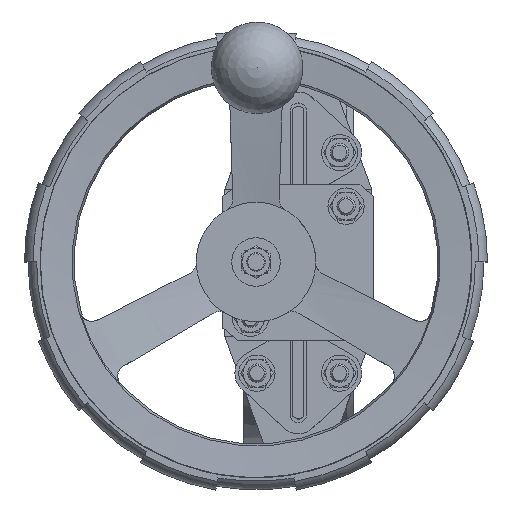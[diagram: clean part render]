
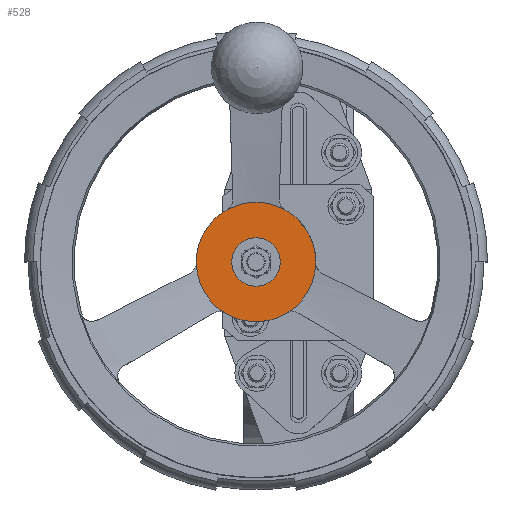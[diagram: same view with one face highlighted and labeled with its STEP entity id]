
A CAD part, top view. The second image highlights one B-rep face of the part: STEP entity #528.
In plain terms, the highlighted planar face has unit normal (0, 0, 1).
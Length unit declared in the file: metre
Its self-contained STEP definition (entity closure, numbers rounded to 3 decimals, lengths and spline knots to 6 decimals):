
#528=ADVANCED_FACE('',(#1864,#1865),#1866,.T.);
#1864=FACE_OUTER_BOUND('',#3893,.T.);
#1865=FACE_BOUND('',#3894,.T.);
#1866=PLANE('',#3895);
#3893=EDGE_LOOP('',(#8822,#8823,#8824,#8825,#8826,#8827));
#3894=EDGE_LOOP('',(#8828));
#3895=AXIS2_PLACEMENT_3D('',#8829,#8830,#8831);
#8822=ORIENTED_EDGE('',*,*,#12283,.F.);
#8823=ORIENTED_EDGE('',*,*,#12284,.T.);
#8824=ORIENTED_EDGE('',*,*,#12285,.F.);
#8825=ORIENTED_EDGE('',*,*,#12286,.T.);
#8826=ORIENTED_EDGE('',*,*,#12275,.F.);
#8827=ORIENTED_EDGE('',*,*,#12281,.T.);
#8828=ORIENTED_EDGE('',*,*,#12287,.F.);
#8829=CARTESIAN_POINT('',(-0.023,0.0325,0.4745));
#8830=DIRECTION('',(0.,0.0,1.0));
#8831=DIRECTION('',(1.0,0.0,0.));
#12275=EDGE_CURVE('',#15298,#15300,#15301,.T.);
#12281=EDGE_CURVE('',#15298,#15308,#15309,.T.);
#12283=EDGE_CURVE('',#15311,#15308,#15312,.T.);
#12284=EDGE_CURVE('',#15311,#15313,#15314,.T.);
#12285=EDGE_CURVE('',#15315,#15313,#15316,.T.);
#12286=EDGE_CURVE('',#15315,#15300,#15317,.T.);
#12287=EDGE_CURVE('',#15318,#15318,#15319,.T.);
#15298=VERTEX_POINT('',#21385);
#15300=VERTEX_POINT('',#21401);
#15301=CIRCLE('',#21402,0.0325);
#15308=VERTEX_POINT('',#21449);
#15309=CIRCLE('',#21450,0.0325);
#15311=VERTEX_POINT('',#21453);
#15312=CIRCLE('',#21454,0.0325);
#15313=VERTEX_POINT('',#21455);
#15314=CIRCLE('',#21456,0.0325);
#15315=VERTEX_POINT('',#21457);
#15316=CIRCLE('',#21458,0.0325);
#15317=CIRCLE('',#21459,0.0325);
#15318=VERTEX_POINT('',#21460);
#15319=CIRCLE('',#21461,0.013175);
#21385=CARTESIAN_POINT('',(0.009496,-0.00053,0.4745));
#21401=CARTESIAN_POINT('',(-0.006153,-0.027793,0.4745));
#21402=AXIS2_PLACEMENT_3D('',#25284,#25285,#25286);
#21449=CARTESIAN_POINT('',(-0.007283,0.028447,0.4745));
#21450=AXIS2_PLACEMENT_3D('',#25289,#25290,#25291);
#21453=CARTESIAN_POINT('',(-0.038717,0.028447,0.4745));
#21454=AXIS2_PLACEMENT_3D('',#25293,#25294,#25295);
#21455=CARTESIAN_POINT('',(-0.055496,-0.00053,0.4745));
#21456=AXIS2_PLACEMENT_3D('',#25296,#25297,#25298);
#21457=CARTESIAN_POINT('',(-0.039847,-0.027793,0.4745));
#21458=AXIS2_PLACEMENT_3D('',#25299,#25300,#25301);
#21459=AXIS2_PLACEMENT_3D('',#25302,#25303,#25304);
#21460=CARTESIAN_POINT('',(-0.009825,0.,0.4745));
#21461=AXIS2_PLACEMENT_3D('',#25305,#25306,#25307);
#25284=CARTESIAN_POINT('',(-0.023,0.,0.4745));
#25285=DIRECTION('',(0.,0.0,-1.0));
#25286=DIRECTION('',(-1.0,0.0,0.));
#25289=CARTESIAN_POINT('',(-0.023,0.,0.4745));
#25290=DIRECTION('',(0.,0.0,1.0));
#25291=DIRECTION('',(1.0,0.0,0.));
#25293=CARTESIAN_POINT('',(-0.023,0.,0.4745));
#25294=DIRECTION('',(0.,0.0,-1.0));
#25295=DIRECTION('',(-1.0,0.0,0.));
#25296=CARTESIAN_POINT('',(-0.023,0.,0.4745));
#25297=DIRECTION('',(0.,0.0,1.0));
#25298=DIRECTION('',(1.0,0.0,0.));
#25299=CARTESIAN_POINT('',(-0.023,0.,0.4745));
#25300=DIRECTION('',(0.,0.0,-1.0));
#25301=DIRECTION('',(-1.0,0.0,0.));
#25302=CARTESIAN_POINT('',(-0.023,0.,0.4745));
#25303=DIRECTION('',(0.,0.0,1.0));
#25304=DIRECTION('',(1.0,0.0,0.));
#25305=CARTESIAN_POINT('',(-0.023,0.,0.4745));
#25306=DIRECTION('',(0.0,0.0,1.0));
#25307=DIRECTION('',(1.0,0.0,0.0));
